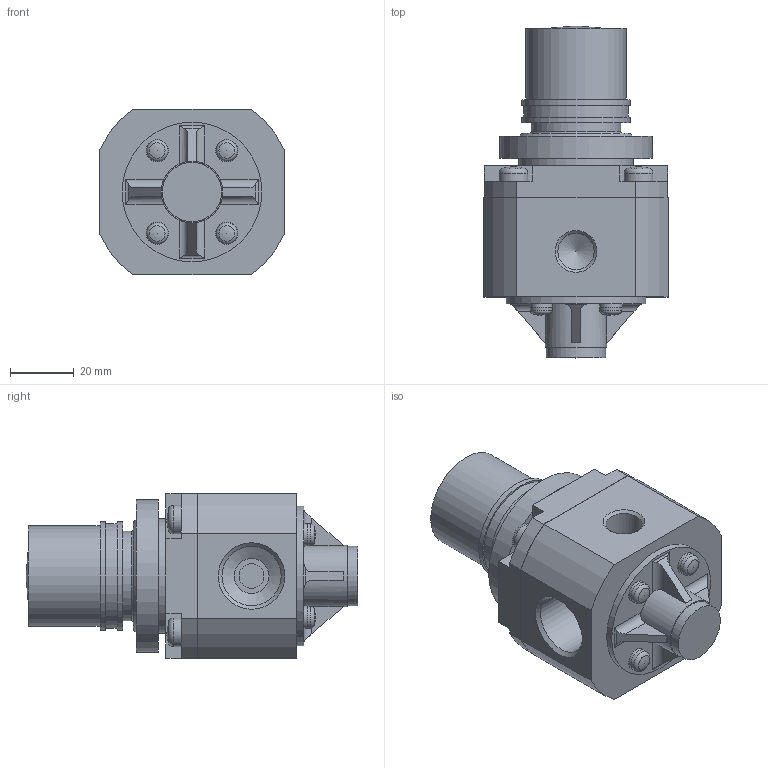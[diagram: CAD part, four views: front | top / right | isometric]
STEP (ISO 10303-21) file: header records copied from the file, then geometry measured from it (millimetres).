
FILE_DESCRIPTION(/* description */ ('STEP AP203'),/* implementation_level */ '2;1');
FILE_NAME(/* name */ 'SRH4010-04(0)',/* time_stamp */ '2026-03-24T04:57:16+01:00',/* author */ ('License CC BY-ND 4.0'),/* organization */ ('CADENAS'),/* preprocessor_version */ 'ST-DEVELOPER v20',/* originating_system */ 'PARTsolutions',/* authorisation */ ' ');
FILE_SCHEMA (('CONFIG_CONTROL_DESIGN'));
Length unit declared in the file: millimetre
Products named in the file (3): SRH4010-04(0); SRH4010-04(0)_BODY; M36x1.5_NUT
Assembly tree (2 placements, depth 2):
  SRH4010-04(0)
    SRH4010-04(0)_BODY
    M36x1.5_NUT
Bounding box: 58 x 104.5 x 52 mm (x, y, z)
Volume: 154368.5 mm3; surface area: 27268.2 mm2
Topology: 2 solids, 2 shells, 139 faces, 331 edges, 212 vertices
Faces by surface type: plane 60, cylinder 48, cone 13, torus 9, sphere 9
Full cylindrical faces by diameter (mm): 0.8 x1, 2.6 x1, 7 x4, 7.8 x2, 9 x4, 11 x2, 11.445 x1, 18.631 x2, 18.7 x1, 19.4 x1, 28.277 x1, 31.55 x1, 33 x1, 34 x2, 34.376 x1, 36 x1, 44 x1, 48 x1
Entity records: 3615 total; most frequent: CARTESIAN_POINT 641, DIRECTION 630, ORIENTED_EDGE 502, AXIS2_PLACEMENT_3D 253, EDGE_CURVE 251, FACE_BOUND 217, EDGE_LOOP 216, VERTEX_POINT 192
